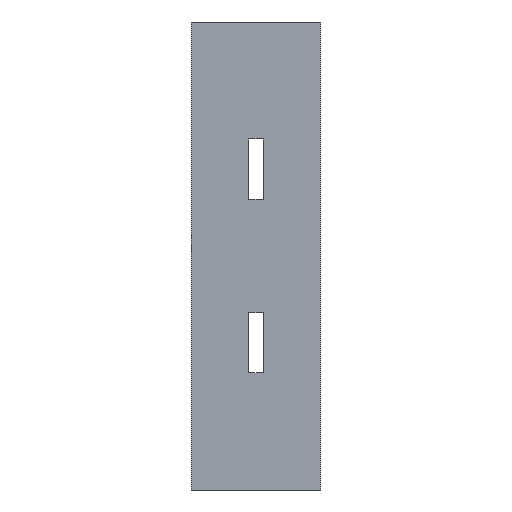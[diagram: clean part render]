
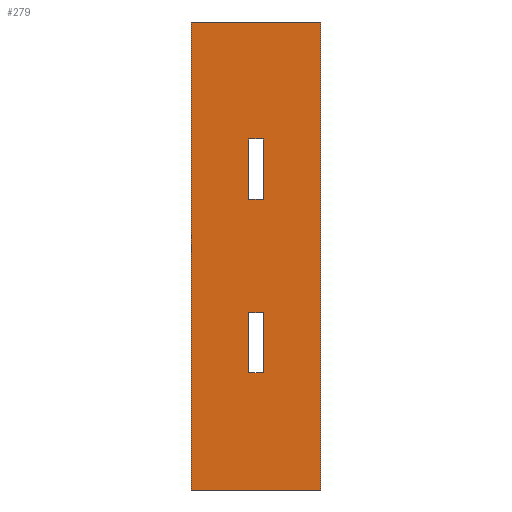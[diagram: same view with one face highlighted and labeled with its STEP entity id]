
A CAD part, left-side view. The second image highlights one B-rep face of the part: STEP entity #279.
In plain terms, the highlighted planar face has unit normal (-1, 0, 0).
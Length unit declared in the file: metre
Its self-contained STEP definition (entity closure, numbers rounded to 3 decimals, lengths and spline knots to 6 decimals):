
#72=ORIENTED_EDGE('',*,*,#104,.T.);
#73=ORIENTED_EDGE('',*,*,#116,.T.);
#74=ORIENTED_EDGE('',*,*,#111,.F.);
#75=ORIENTED_EDGE('',*,*,#108,.F.);
#76=ORIENTED_EDGE('',*,*,#94,.T.);
#77=ORIENTED_EDGE('',*,*,#114,.T.);
#78=ORIENTED_EDGE('',*,*,#101,.F.);
#79=ORIENTED_EDGE('',*,*,#98,.F.);
#80=ORIENTED_EDGE('',*,*,#84,.T.);
#81=ORIENTED_EDGE('',*,*,#118,.F.);
#82=ORIENTED_EDGE('',*,*,#91,.F.);
#83=ORIENTED_EDGE('',*,*,#88,.T.);
#84=EDGE_CURVE('',#120,#121,#144,.T.);
#88=EDGE_CURVE('',#124,#120,#148,.T.);
#91=EDGE_CURVE('',#124,#126,#151,.T.);
#94=EDGE_CURVE('',#128,#129,#154,.T.);
#98=EDGE_CURVE('',#128,#132,#158,.T.);
#101=EDGE_CURVE('',#132,#134,#161,.T.);
#104=EDGE_CURVE('',#136,#137,#164,.T.);
#108=EDGE_CURVE('',#136,#140,#168,.T.);
#111=EDGE_CURVE('',#140,#142,#171,.T.);
#114=EDGE_CURVE('',#129,#134,#174,.T.);
#116=EDGE_CURVE('',#137,#142,#176,.T.);
#118=EDGE_CURVE('',#126,#121,#178,.T.);
#120=VERTEX_POINT('',#376);
#121=VERTEX_POINT('',#377);
#124=VERTEX_POINT('',#385);
#126=VERTEX_POINT('',#391);
#128=VERTEX_POINT('',#397);
#129=VERTEX_POINT('',#398);
#132=VERTEX_POINT('',#406);
#134=VERTEX_POINT('',#412);
#136=VERTEX_POINT('',#418);
#137=VERTEX_POINT('',#419);
#140=VERTEX_POINT('',#427);
#142=VERTEX_POINT('',#433);
#144=LINE('',#375,#180);
#148=LINE('',#384,#184);
#151=LINE('',#390,#187);
#154=LINE('',#396,#190);
#158=LINE('',#405,#194);
#161=LINE('',#411,#197);
#164=LINE('',#417,#200);
#168=LINE('',#426,#204);
#171=LINE('',#432,#207);
#174=LINE('',#438,#210);
#176=LINE('',#441,#212);
#178=LINE('',#444,#214);
#180=VECTOR('',#311,1.);
#184=VECTOR('',#317,1.);
#187=VECTOR('',#322,1.);
#190=VECTOR('',#327,1.);
#194=VECTOR('',#333,1.);
#197=VECTOR('',#338,1.);
#200=VECTOR('',#343,1.);
#204=VECTOR('',#349,1.);
#207=VECTOR('',#354,1.);
#210=VECTOR('',#359,1.);
#212=VECTOR('',#363,1.);
#214=VECTOR('',#367,1.);
#231=EDGE_LOOP('',(#72,#73,#74,#75));
#232=EDGE_LOOP('',(#76,#77,#78,#79));
#233=EDGE_LOOP('',(#80,#81,#82,#83));
#249=FACE_BOUND('',#231,.T.);
#250=FACE_BOUND('',#232,.T.);
#251=FACE_BOUND('',#233,.T.);
#265=PLANE('',#306);
#279=ADVANCED_FACE('',(#249,#250,#251),#265,.F.);
#306=AXIS2_PLACEMENT_3D('',#447,#371,#372);
#311=DIRECTION('',(0.,0.,1.));
#317=DIRECTION('',(0.,-1.,0.));
#322=DIRECTION('',(0.,0.,1.));
#327=DIRECTION('',(0.,0.,1.));
#333=DIRECTION('',(0.,-1.,0.));
#338=DIRECTION('',(0.,0.,1.));
#343=DIRECTION('',(0.,-1.,0.));
#349=DIRECTION('',(0.,0.,-1.));
#354=DIRECTION('',(0.,-1.,0.));
#359=DIRECTION('',(0.,-1.,0.));
#363=DIRECTION('',(0.,0.,-1.));
#367=DIRECTION('',(0.,-1.,0.));
#371=DIRECTION('',(1.,0.,0.));
#372=DIRECTION('',(0.,0.,-1.));
#375=CARTESIAN_POINT('',(0.0064,0.0027,-0.081469));
#376=CARTESIAN_POINT('',(0.0064,0.0027,-0.0964));
#377=CARTESIAN_POINT('',(0.0064,0.0027,-0.0136));
#384=CARTESIAN_POINT('',(0.0064,0.0142,-0.0964));
#385=CARTESIAN_POINT('',(0.0064,0.0257,-0.0964));
#390=CARTESIAN_POINT('',(0.0064,0.0257,-0.055));
#391=CARTESIAN_POINT('',(0.0064,0.0257,-0.0136));
#396=CARTESIAN_POINT('',(0.0064,0.0155,-0.07035));
#397=CARTESIAN_POINT('',(0.0064,0.0155,-0.0757));
#398=CARTESIAN_POINT('',(0.0064,0.0155,-0.065));
#405=CARTESIAN_POINT('',(0.0064,0.0142,-0.0757));
#406=CARTESIAN_POINT('',(0.0064,0.0129,-0.0757));
#411=CARTESIAN_POINT('',(0.0064,0.0129,-0.07035));
#412=CARTESIAN_POINT('',(0.0064,0.0129,-0.065));
#417=CARTESIAN_POINT('',(0.0064,0.0142,-0.0343));
#418=CARTESIAN_POINT('',(0.0064,0.0155,-0.0343));
#419=CARTESIAN_POINT('',(0.0064,0.0129,-0.0343));
#426=CARTESIAN_POINT('',(0.0064,0.0155,-0.03965));
#427=CARTESIAN_POINT('',(0.0064,0.0155,-0.045));
#432=CARTESIAN_POINT('',(0.0064,0.0142,-0.045));
#433=CARTESIAN_POINT('',(0.0064,0.0129,-0.045));
#438=CARTESIAN_POINT('',(0.0064,0.0142,-0.065));
#441=CARTESIAN_POINT('',(0.0064,0.0129,-0.03965));
#444=CARTESIAN_POINT('',(0.0064,0.0142,-0.0136));
#447=CARTESIAN_POINT('',(0.0064,0.01285,-0.055));
